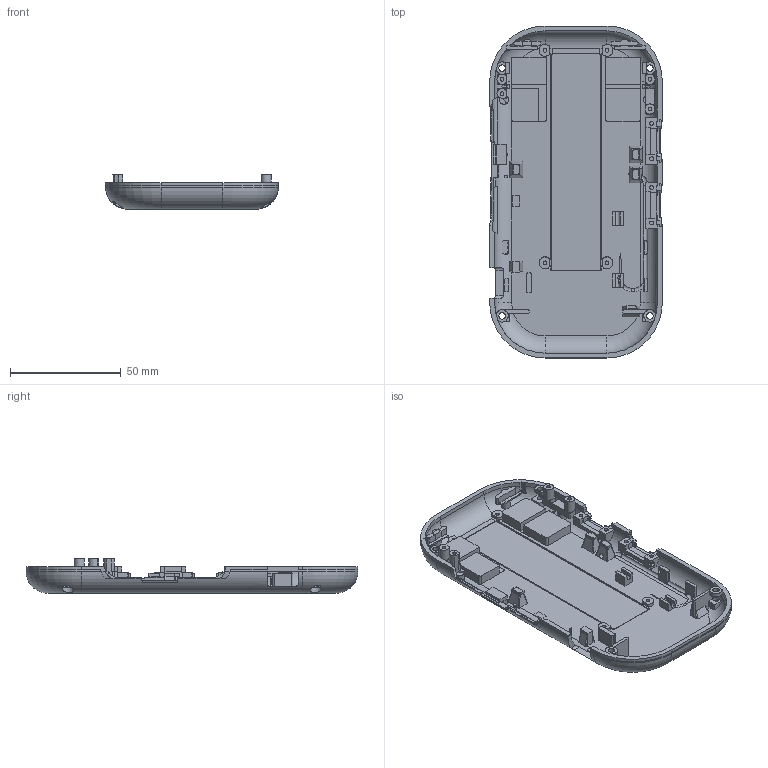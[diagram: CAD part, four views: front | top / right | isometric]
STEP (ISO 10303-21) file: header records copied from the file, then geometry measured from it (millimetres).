
FILE_DESCRIPTION(/* description */ (''),/* implementation_level */ '2;1');
FILE_NAME(/* name */ 'P02.step',/* time_stamp */ '2026-09-15T15:15:23-07:00',/* author */ (''),/* organization */ (''),/* preprocessor_version */ 'ST-DEVELOPER v20.1',/* originating_system */ 'Autodesk Translation Framework v15.8.0.0',/* authorisation */ '');
FILE_SCHEMA (('AUTOMOTIVE_DESIGN { 1 0 10303 214 3 1 1 }'));
Length unit declared in the file: millimetre
Products named in the file (1): 2026-09-15-15-15-22-798
Bounding box: 78 x 150 x 15.6 mm (x, y, z)
Volume: 34704.7 mm3; surface area: 32514.9 mm2
Topology: 1 solids, 1 shells, 877 faces, 2648 edges, 1786 vertices
Faces by surface type: plane 583, cylinder 218, torus 34, bspline 22, cone 20
Full cylindrical faces by diameter (mm): 1.65 x1, 1.7 x8, 1.8 x4, 2.17 x1, 2.9 x8, 4.2 x4
Entity records: 38982 total; most frequent: CARTESIAN_POINT 14831, ORIENTED_EDGE 5296, DIRECTION 4888, EDGE_CURVE 2648, VERTEX_POINT 1786, AXIS2_PLACEMENT_3D 1650, LINE 1588, VECTOR 1588
